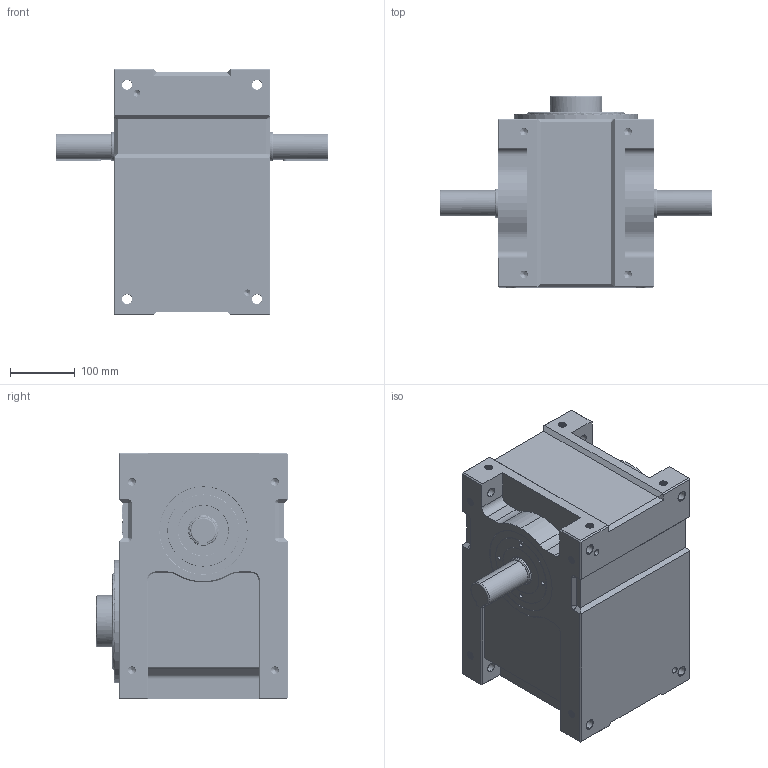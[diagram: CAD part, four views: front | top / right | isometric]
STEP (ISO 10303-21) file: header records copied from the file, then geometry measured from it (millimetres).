
FILE_DESCRIPTION (( 'STEP AP214' ), '1' );
FILE_NAME ('ER-RU140DF英锐凸轮分割器3D壳体和法兰面加销孔标准图纸(电话15062628977)AAEE.STEP', '2022-08-13T08:36:57', ( '微软用户' ), ( '微软中国' ), 'SwSTEP 2.0', 'SolidWorks 2017', '' );
FILE_SCHEMA (( 'AUTOMOTIVE_DESIGN' ));
Length unit declared in the file: millimetre
Products named in the file (1): ER-RU140DF英锐凸轮分割器3D壳体和法兰面加销孔标准图纸(电话15062628977)AAEE
Bounding box: 420 x 295 x 380 mm (x, y, z)
Volume: 21940028.8 mm3; surface area: 606105.6 mm2
Topology: 1 solids, 1 shells, 2449 faces, 6838 edges, 4453 vertices
Faces by surface type: plane 1091, cylinder 697, bspline 482, cone 179
Entity records: 178494 total; most frequent: CARTESIAN_POINT 122002, ORIENTED_EDGE 13552, DIRECTION 8588, EDGE_CURVE 6776, VERTEX_POINT 4453, LINE 4116, VECTOR 4116, EDGE_LOOP 2589
